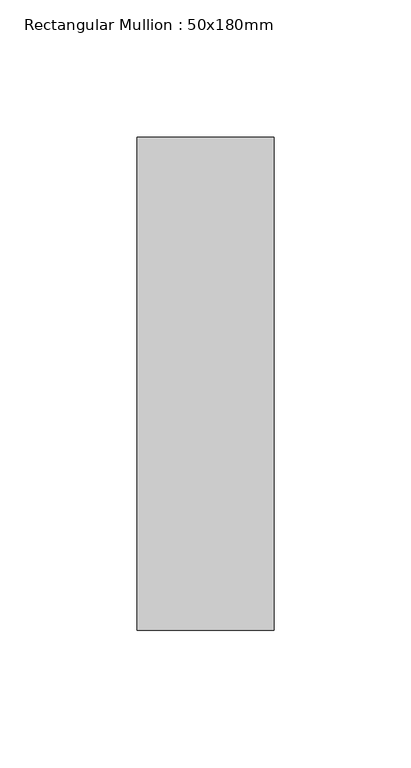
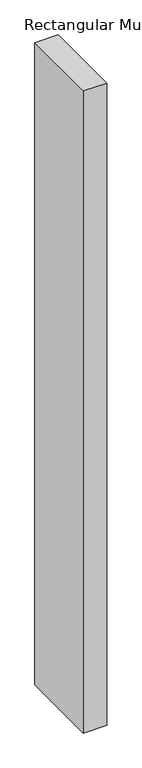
"""IFC4 building model written with IfcOpenShell, lengths in millimetres: member geometry, Rectangular Mullion : 50x180mm."""

from ifc_helpers import new_model, si_unit, frame, origin, place, context, project, spatial, polyline, outline, extrude, source, transform, mapped, element, save


def rectangular_mullion_50x180mm_ec7f3dde(model_context):
    return source(origin(), model_context, "Body", "SweptSolid", [
        extrude(outline(polyline([(25.0, 90.0), (25.0, -90.0), (-25.0, -90.0), (-25.0, 90.0), (25.0, 90.0)])), frame((0.0, 0.0, -1457.8124999), z_axis=(0.0, 0.0, 1.0), x_axis=(1.0, 0.0, 0.0)), (0.0, 0.0, 1.0), 1457.8124999),
    ])


if __name__ == "__main__":
    model = new_model("IFC4")
    model_context = context("Model", 3, world=origin())
    ifc_project = project(units=[si_unit("LENGTHUNIT", "METRE", prefix="MILLI")], contexts=[model_context])
    site = spatial("IfcSite", under=ifc_project)
    building = spatial("IfcBuilding", under=site)
    placement = place(None, origin())
    rectangular_mullion_50x180mm_shape = rectangular_mullion_50x180mm_ec7f3dde(model_context)
    element("IfcMember", 1, ObjectType="Rectangular Mullion : 50x180mm", at=placement, inside=building, context=model_context, shape_type="MappedRepresentation", body=[
        mapped(rectangular_mullion_50x180mm_shape, transform((0.0, 0.0, 0.0), x_axis=(1.0, 0.0, 0.0), y_axis=(0.0, 1.0, 0.0), z_axis=(0.0, 0.0, 1.0))),
    ])
    save(model, "model.ifc")
